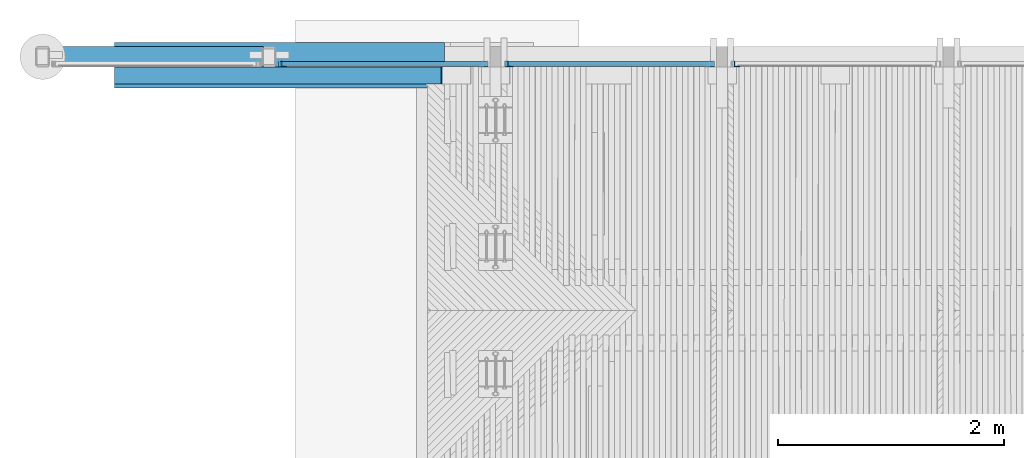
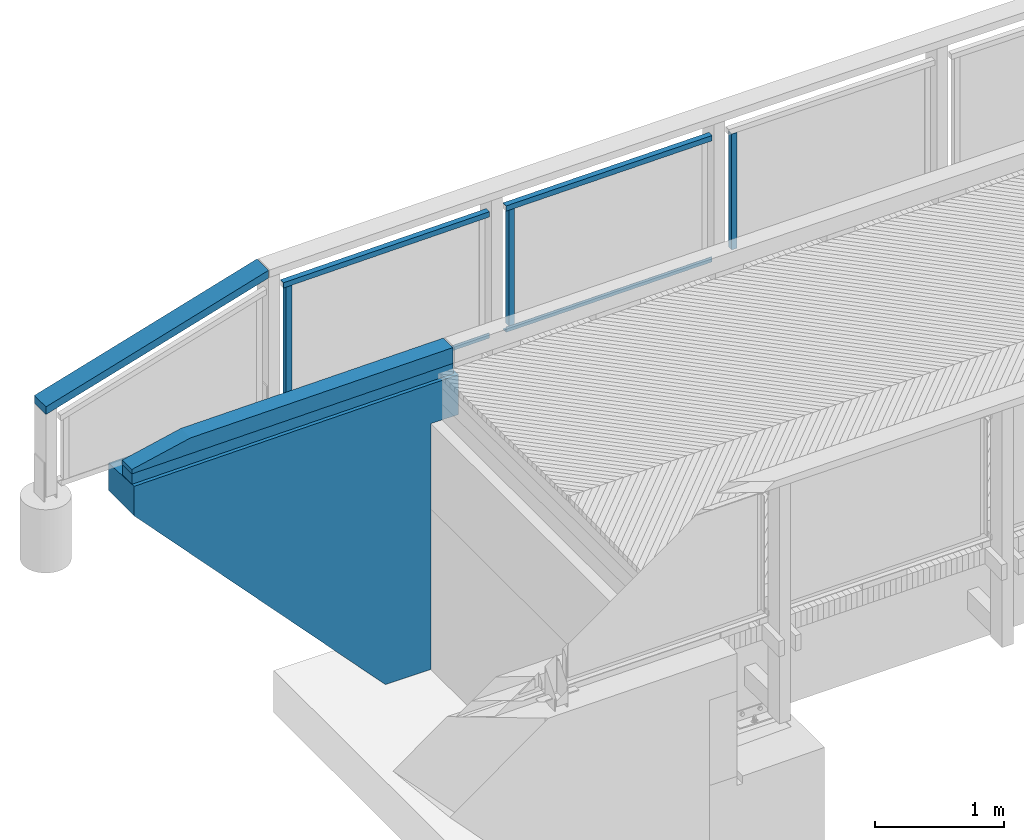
# One storey, part 21 of 65: 11 beams.
"""IFC2X3 building model written with IfcOpenShell, lengths in millimetres."""

from ifc_helpers import new_model, si_unit, frame, origin_with_axes, place, context, subcontext, project, spatial, faceted_brep, material, type_object, element, save


model = new_model("IFC2X3")

# Units and contexts
model_context = context("Model", 3, precision=1e-05, world=origin_with_axes())
body_context = subcontext(model_context, "Body", "Model", "MODEL_VIEW")
ifc_project = project(units=[si_unit("LENGTHUNIT", "METRE", prefix="MILLI"), si_unit("AREAUNIT", "SQUARE_METRE"), si_unit("VOLUMEUNIT", "CUBIC_METRE"), si_unit("MASSUNIT", "GRAM", prefix="KILO"), si_unit("TIMEUNIT", "SECOND"), si_unit("PLANEANGLEUNIT", "RADIAN"), si_unit("SOLIDANGLEUNIT", "STERADIAN"), si_unit("THERMODYNAMICTEMPERATUREUNIT", "DEGREE_CELSIUS"), si_unit("LUMINOUSINTENSITYUNIT", "LUMEN")], contexts=[model_context])

# Site, building, storey
site_placement = place(None, origin_with_axes())
site = spatial("IfcSite", under=ifc_project, at=site_placement, Name="Undefined", CompositionType="ELEMENT")
building_placement = place(site_placement, origin_with_axes())
building = spatial("IfcBuilding", under=site, at=building_placement, Name="Undefined", CompositionType="ELEMENT")
storey_placement = place(building_placement, origin_with_axes())
storey = spatial("IfcBuildingStorey", under=building, at=storey_placement, Name="Undefined", CompositionType="ELEMENT", Elevation=0.0)

# Beams
ifc_material_1 = material(Name="TIMBER/Timber_Undefined")
beam_type_1 = type_object("IfcBeamType", Name="150*100", PredefinedType="NOTDEFINED")
beam_1_placement = place(storey_placement, frame((-3364.03058800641, 24439.9999999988, 3118.67572907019), z_axis=(0.0, -1.0, 0.0), x_axis=(0.999904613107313, 0.0, 0.0138117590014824)))
element("IfcBeam", 1, at=beam_1_placement, inside=storey, type_object=beam_type_1, material=ifc_material_1, Name="TÖRMÄYSJOHDE", ObjectType="150*100", context=body_context, shape_type="Brep", body=[
    faceted_brep([(-3.63797880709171e-12, 50.0, -75.0), (-3.63797880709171e-12, 50.0, 75.0), (2885.27521749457, 50.0, 75.0), (2885.27521749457, 50.0, -75.0), (0.0, -49.9999999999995, 75.0), (2885.27521749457, -49.9999999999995, 75.0), (0.0, -49.9999999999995, -75.0), (2885.27521749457, -49.9999999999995, -75.0)], [[[0, 1, 2, 3]], [[1, 4, 5, 2]], [[4, 6, 7, 5]], [[6, 0, 3, 7]], [[5, 7, 3, 2]], [[6, 4, 1, 0]]]),
])
beam_type_2 = type_object("IfcBeamType", Name="150*150", PredefinedType="NOTDEFINED")
beam_2_placement = place(storey_placement, frame((-3366.03588197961, 24439.9999999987, 3243.66334439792), z_axis=(0.0, -1.0, 0.0), x_axis=(0.999904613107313, 0.0, 0.0138117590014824)))
element("IfcBeam", 2, at=beam_2_placement, inside=storey, type_object=beam_type_2, material=ifc_material_1, Name="TÖRMÄYSJOHDE", ObjectType="150*150", context=body_context, shape_type="Brep", body=[
    faceted_brep([(0.0, -75.0000000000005, 75.0), (0.0, -75.0000000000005, -75.0), (2885.27521749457, -74.9999999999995, -75.0), (2885.27521749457, -74.9999999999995, 75.0), (2885.27521749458, 75.0, -75.0), (2885.27521749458, 75.0, 75.0), (529.511118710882, 75.0, -75.0), (529.511118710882, 75.0, 75.0), (4.54747350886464e-13, -33.1222400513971, 75.0), (4.54747350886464e-13, -33.1222400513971, -75.0)], [[[0, 1, 2, 3]], [[3, 2, 4, 5]], [[5, 4, 6, 7]], [[0, 3, 5, 7, 8]], [[1, 0, 8, 9]], [[4, 2, 1, 9, 6]], [[8, 7, 6, 9]]]),
])
ifc_material_2 = material(Name="CONCRETE/Concrete_Undefined")
beam_type_3 = type_object("IfcBeamType", Name="2800*400", PredefinedType="NOTDEFINED")
beam_3_placement = place(storey_placement, frame((-430.340033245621, 24530.0, 1712.66804762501), z_axis=(-0.0140428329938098, 0.0, 0.999901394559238), x_axis=(-0.999901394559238, 0.0, -0.0140428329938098)))
element("IfcBeam", 3, at=beam_3_placement, inside=storey, type_object=beam_type_3, material=ifc_material_2, Name="SIIPIMUURI", ObjectType="2800*400", context=body_context, shape_type="Brep", body=[
    faceted_brep([(5.63100911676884e-07, 200.0, 1400.0), (0.280884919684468, -200.000000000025, 1380.0), (2915.56834818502, -200.0, 1380.0), (2915.28746382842, 200.0, 1400.0), (270.457242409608, 199.999999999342, -54.8754727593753), (270.457242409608, -200.0, -54.8754727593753), (255.29098277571, -200.0, 1025.01803336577), (255.29098277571, 199.999999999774, 1025.01803336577), (288.066954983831, 200.0, -1308.75182153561), (288.066954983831, -200.0, -1308.75182153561), (697.173583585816, 200.0, -1303.00623892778), (697.173583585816, -200.0, -1303.00623892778), (2919.22031514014, 200.0, 1119.96651154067), (2919.22031514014, -200.0, 1119.96651154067), (5.31563413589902, -200.0, 1021.50732511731), (5.31563413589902, 199.999999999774, 1021.50732511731)], [[[0, 1, 2, 3]], [[4, 5, 6, 7]], [[8, 9, 5, 4]], [[10, 11, 9, 8]], [[12, 13, 11, 10]], [[13, 12, 3, 2]], [[14, 6, 5, 9, 11, 13, 2, 1]], [[7, 6, 14, 15]], [[3, 12, 10, 8, 4, 7, 15, 0]], [[15, 14, 1, 0]]]),
])
ifc_material_3 = material(Name="STEEL/S235JR")
beam_type_4 = type_object("IfcBeamType", Name="L50*5", PredefinedType="NOTDEFINED")
beam_4_placement = place(storey_placement, frame((-1867.50116726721, 24539.9900000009, 4335.13069224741), z_axis=(0.0, 1.0, 0.0), x_axis=(0.0, 0.0, -1.0)))
element("IfcBeam", 4, at=beam_4_placement, inside=storey, type_object=beam_type_4, material=ifc_material_3, Name="BEAM", ObjectType="L50*5", context=body_context, shape_type="Brep", body=[
    faceted_brep([(0.0, 25.0, -25.0), (0.0, 25.0, 25.0), (1099.98982283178, 25.0, 25.0), (1099.98982283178, 25.0, -25.0), (0.0, 20.0, 25.0), (1099.98982283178, 20.0, 25.0), (0.0, 20.0, -20.0), (1099.98982283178, 20.0, -20.0), (0.0, -25.0, -20.0), (1099.98982283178, -25.0, -20.0), (0.0, -25.0, -25.0), (1099.98982283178, -25.0, -25.0)], [[[0, 1, 2, 3]], [[1, 4, 5, 2]], [[4, 6, 7, 5]], [[6, 8, 9, 7]], [[8, 10, 11, 9]], [[10, 0, 3, 11]], [[5, 7, 9, 11, 3, 2]], [[10, 8, 6, 4, 1, 0]]]),
])
beam_5_placement = place(storey_placement, frame((-1917.37287518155, 24539.9900000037, 3209.76815363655), z_axis=(0.0, 1.0, 0.0), x_axis=(0.999888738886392, 0.0, 0.0149167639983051)))
element("IfcBeam", 5, at=beam_5_placement, inside=storey, type_object=beam_type_4, material=ifc_material_3, Name="BEAM", ObjectType="L50*5", context=body_context, shape_type="Brep", body=[
    faceted_brep([(0.0, 25.0, -25.0), (0.0, 25.0, 25.0), (1849.2053154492, 25.0, 25.0), (1849.2053154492, 25.0, -25.0), (0.0, 20.0, 25.0), (1849.2053154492, 20.0, 25.0), (0.0, 20.0, -20.0), (1849.2053154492, 20.0, -20.0), (0.0, -25.0, -20.0), (1849.2053154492, -24.9999999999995, -20.0), (0.0, -25.0, -25.0), (1849.2053154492, -24.9999999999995, -25.0)], [[[0, 1, 2, 3]], [[1, 4, 5, 2]], [[4, 6, 7, 5]], [[6, 8, 9, 7]], [[8, 10, 11, 9]], [[10, 0, 3, 11]], [[5, 7, 9, 11, 3, 2]], [[10, 8, 6, 4, 1, 0]]]),
])
beam_6_placement = place(storey_placement, frame((132.498832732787, 24539.9900000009, 4364.61255347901), z_axis=(0.0, 1.0, 0.0), x_axis=(0.0, 0.0, -1.0)))
element("IfcBeam", 6, at=beam_6_placement, inside=storey, type_object=beam_type_4, material=ifc_material_3, Name="BEAM", ObjectType="L50*5", context=body_context, shape_type="Brep", body=[
    faceted_brep([(0.0, 25.0, -25.0), (0.0, 25.0, 25.0), (1099.99156352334, 25.0, 25.0), (1099.99156352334, 25.0, -25.0), (0.0, 20.0, 25.0), (1099.99156352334, 20.0, 25.0), (0.0, 20.0, -20.0), (1099.99156352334, 20.0, -20.0), (0.0, -25.0, -20.0), (1099.99156352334, -25.0, -20.0), (0.0, -25.0, -25.0), (1099.99156352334, -25.0, -25.0)], [[[0, 1, 2, 3]], [[1, 4, 5, 2]], [[4, 6, 7, 5]], [[6, 8, 9, 7]], [[8, 10, 11, 9]], [[10, 0, 3, 11]], [[5, 7, 9, 11, 3, 2]], [[10, 8, 6, 4, 1, 0]]]),
])
beam_7_placement = place(storey_placement, frame((82.7038172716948, 24539.9899999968, 3239.33229134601), z_axis=(0.0, 1.0, 0.0), x_axis=(0.999932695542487, 0.0, 0.0116019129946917)))
element("IfcBeam", 7, at=beam_7_placement, inside=storey, type_object=beam_type_4, material=ifc_material_3, Name="BEAM", ObjectType="L50*5", context=body_context, shape_type="Brep", body=[
    faceted_brep([(0.0, 25.0, -25.0), (0.0, 25.0, 25.0), (1849.12941305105, 24.9999999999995, 25.0), (1849.12941305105, 24.9999999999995, -25.0), (0.0, 20.0, 25.0), (1849.12941305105, 20.0, 25.0), (0.0, 20.0, -20.0), (1849.12941305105, 20.0, -20.0), (0.0, -25.0, -20.0), (1849.12941305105, -25.0000000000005, -20.0), (0.0, -25.0, -25.0), (1849.12941305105, -25.0000000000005, -25.0)], [[[0, 1, 2, 3]], [[1, 4, 5, 2]], [[4, 6, 7, 5]], [[6, 8, 9, 7]], [[8, 10, 11, 9]], [[10, 0, 3, 11]], [[5, 7, 9, 11, 3, 2]], [[10, 8, 6, 4, 1, 0]]]),
])
beam_8_placement = place(storey_placement, frame((-67.6274382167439, 24539.9899999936, 4387.35861851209), z_axis=(0.0, 1.0, 0.0), x_axis=(-0.999888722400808, 0.0, -0.0149178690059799)))
element("IfcBeam", 8, at=beam_8_placement, inside=storey, type_object=beam_type_4, material=ifc_material_3, Name="BEAM", ObjectType="L50*5", context=body_context, shape_type="Brep", body=[
    faceted_brep([(0.0, 25.0, -25.0), (0.0, 25.0, 25.0), (1849.2053154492, 25.0, 25.0), (1849.2053154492, 25.0, -25.0), (0.0, 20.0, 25.0), (1849.2053154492, 20.0, 25.0), (0.0, 20.0, -20.0), (1849.2053154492, 20.0, -20.0), (0.0, -25.0, -20.0), (1849.2053154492, -24.9999999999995, -20.0), (0.0, -25.0, -25.0), (1849.2053154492, -24.9999999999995, -25.0)], [[[0, 1, 2, 3]], [[1, 4, 5, 2]], [[4, 6, 7, 5]], [[6, 8, 9, 7]], [[8, 10, 11, 9]], [[10, 0, 3, 11]], [[5, 7, 9, 11, 3, 2]], [[10, 8, 6, 4, 1, 0]]]),
])
beam_9_placement = place(storey_placement, frame((2132.49883273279, 24539.9900000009, 4387.46403524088), z_axis=(0.0, 1.0, 0.0), x_axis=(0.0, 0.0, -1.0)))
element("IfcBeam", 9, at=beam_9_placement, inside=storey, type_object=beam_type_4, material=ifc_material_3, Name="BEAM", ObjectType="L50*5", context=body_context, shape_type="Brep", body=[
    faceted_brep([(0.0, 25.0, -25.0), (0.0, 25.0, 25.0), (1099.9980148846, 25.0, 25.0), (1099.9980148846, 25.0, -25.0), (0.0, 20.0, 25.0), (1099.9980148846, 20.0, 25.0), (0.0, 20.0, -20.0), (1099.9980148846, 20.0, -20.0), (0.0, -25.0, -20.0), (1099.9980148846, -25.0, -20.0), (0.0, -25.0, -25.0), (1099.9980148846, -25.0, -25.0)], [[[0, 1, 2, 3]], [[1, 4, 5, 2]], [[4, 6, 7, 5]], [[6, 8, 9, 7]], [[8, 10, 11, 9]], [[10, 0, 3, 11]], [[5, 7, 9, 11, 3, 2]], [[10, 8, 6, 4, 1, 0]]]),
])
beam_10_placement = place(storey_placement, frame((1932.28887131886, 24539.9899999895, 4410.78604338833), z_axis=(0.0, 1.0, 0.0), x_axis=(-0.999932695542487, 0.0, -0.0116019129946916)))
element("IfcBeam", 10, at=beam_10_placement, inside=storey, type_object=beam_type_4, material=ifc_material_3, Name="BEAM", ObjectType="L50*5", context=body_context, shape_type="Brep", body=[
    faceted_brep([(0.0, 25.0, -25.0), (0.0, 25.0, 25.0), (1849.12941305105, 24.9999999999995, 25.0), (1849.12941305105, 24.9999999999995, -25.0), (0.0, 20.0, 25.0), (1849.12941305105, 20.0, 25.0), (0.0, 20.0, -20.0), (1849.12941305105, 20.0, -20.0), (0.0, -25.0, -20.0), (1849.12941305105, -25.0000000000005, -20.0), (0.0, -25.0, -25.0), (1849.12941305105, -25.0000000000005, -25.0)], [[[0, 1, 2, 3]], [[1, 4, 5, 2]], [[4, 6, 7, 5]], [[6, 8, 9, 7]], [[8, 10, 11, 9]], [[10, 0, 3, 11]], [[5, 7, 9, 11, 3, 2]], [[10, 8, 6, 4, 1, 0]]]),
])
beam_type_5 = type_object("IfcBeamType", Name="180*70", PredefinedType="NOTDEFINED")
beam_11_placement = place(storey_placement, frame((-2039.93420243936, 24605.0099640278, 4517.05500293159), z_axis=(0.0, -1.0, 0.0), x_axis=(-0.958243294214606, 0.0, -0.285954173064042)))
element("IfcBeam", 11, at=beam_11_placement, inside=storey, type_object=beam_type_5, material=ifc_material_1, Name="YLÄJOHDE", ObjectType="180*70", context=body_context, shape_type="Brep", body=[
    faceted_brep([(41.6879268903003, 35.0699417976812, -90.0), (41.8028913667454, -34.9299637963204, -90.0), (0.059877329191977, -34.9999487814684, -90.0), (20.9594530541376, 35.0351891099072, -90.0), (41.8028913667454, -34.9299637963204, 90.0), (41.6879268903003, 35.0699417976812, 90.0), (20.9594530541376, 35.0351891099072, 90.0), (0.059877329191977, -34.9999487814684, 90.0), (83.4357358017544, 35.1370779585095, 90.0), (83.4357358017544, 35.1370779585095, -90.0), (83.5459100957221, -34.8628353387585, -90.0), (83.5459100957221, -34.8628353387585, 90.0), (125.288933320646, -34.7985634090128, 90.0), (125.183549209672, 35.2013572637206, 90.0), (125.183549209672, 35.2013572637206, -90.0), (125.288933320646, -34.7985634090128, -90.0), (167.031960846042, -34.7371480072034, -90.0), (167.031960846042, -34.7371480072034, 90.0), (166.931366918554, 35.2627797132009, 90.0), (166.931366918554, 35.2627797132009, -90.0), (208.679188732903, 35.3213453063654, -90.0), (208.774992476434, -34.6785891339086, -90.0), (208.774992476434, -34.6785891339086, 90.0), (208.679188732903, 35.3213453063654, 90.0), (250.427014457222, 35.3770540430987, 90.0), (250.427014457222, 35.3770540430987, -90.0), (250.518028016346, -34.6228867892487, -90.0), (250.518028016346, -34.6228867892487, 90.0), (292.261067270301, -34.57004097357, 90.0), (292.17484389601, 35.4299059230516, 90.0), (292.17484389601, 35.4299059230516, -90.0), (292.261067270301, -34.57004097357, -90.0), (334.004110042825, -34.5200516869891, -90.0), (334.004110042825, -34.5200516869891, 90.0), (333.922676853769, 35.4799009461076, 90.0), (333.922676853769, 35.4799009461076, -90.0), (375.670513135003, 35.527039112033, -90.0), (375.747156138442, -34.4729189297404, -90.0), (375.747156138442, -34.4729189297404, 90.0), (375.670513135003, 35.527039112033, 90.0), (417.418352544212, 35.5713204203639, 90.0), (417.418352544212, 35.5713204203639, -90.0), (417.490205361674, -34.428642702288, -90.0), (417.490205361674, -34.428642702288, 90.0), (459.233257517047, -34.3872230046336, 90.0), (459.166194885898, 35.6127448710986, 90.0), (459.166194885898, 35.6127448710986, -90.0), (459.233257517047, -34.3872230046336, -90.0), (500.976312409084, -34.3486598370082, -90.0), (500.976312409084, -34.3486598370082, 90.0), (500.914039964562, 35.651312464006, 90.0), (500.914039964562, 35.651312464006, -90.0), (542.661887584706, 35.6870231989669, -90.0), (542.71936984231, -34.3129531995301, -90.0), (542.71936984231, -34.3129531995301, 90.0), (542.661887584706, 35.6870231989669, 90.0), (584.409737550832, 35.7198770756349, 90.0), (584.409737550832, 35.7198770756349, -90.0), (584.462429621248, -34.2801030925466, -90.0), (584.462429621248, -34.2801030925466, 90.0), (626.205491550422, -34.2501095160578, 90.0), (626.157589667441, 35.7498740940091, 90.0), (626.157589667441, 35.7498740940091, -90.0), (626.205491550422, -34.2501095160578, -90.0), (667.948555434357, -34.222972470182, -90.0), (667.948555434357, -34.222972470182, 90.0), (667.905443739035, 35.777014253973, 90.0), (667.905443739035, 35.777014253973, -90.0), (709.653299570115, 35.801297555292, -90.0), (709.691621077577, -34.19869195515, -90.0), (709.691621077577, -34.19869195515, 90.0), (709.653299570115, 35.801297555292, 90.0), (751.401156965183, 35.8227239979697, 90.0), (751.401156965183, 35.8227239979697, -90.0), (751.434688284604, -34.1772679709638, -90.0), (751.434688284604, -34.1772679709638, 90.0), (793.177756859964, -34.1587005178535, 90.0), (793.14901572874, 35.8412935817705, 90.0), (793.14901572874, 35.8412935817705, -90.0), (793.177756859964, -34.1587005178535, -90.0), (834.920826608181, -34.1429895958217, -90.0), (834.920826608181, -34.1429895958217, 90.0), (834.896875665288, 35.8570063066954, 90.0), (834.896875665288, 35.8570063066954, -90.0), (876.644736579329, 35.8698621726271, -90.0), (876.663897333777, -34.1301352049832, -90.0), (876.663897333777, -34.1301352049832, 90.0), (876.644736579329, 35.8698621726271, 90.0), (918.392598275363, 35.8798611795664, 90.0), (918.392598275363, 35.8798611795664, -90.0), (918.406968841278, -34.1201373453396, -90.0), (918.406968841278, -34.1201373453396, 90.0), (960.150040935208, -34.1129960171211, 90.0), (960.140460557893, 35.8870033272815, 90.0), (960.140460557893, 35.8870033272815, -90.0), (960.150040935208, -34.1129960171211, -90.0), (1001.89311342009, -34.1087112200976, -90.0), (1001.89311342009, -34.1087112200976, 90.0), (1001.88832323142, 35.8912886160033, 90.0), (1001.88832323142, 35.8912886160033, -90.0), (1043.63618610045, 35.8927170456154, -90.0), (1043.63618610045, -34.1072829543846, -90.0), (1043.63618610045, -34.1072829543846, 90.0), (1043.63618610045, 35.8927170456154, 90.0), (1085.38404896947, 35.8912886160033, 90.0), (1085.38404896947, 35.8912886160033, -90.0), (1085.3792587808, -34.1087112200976, -90.0), (1085.3792587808, -34.1087112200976, 90.0), (1127.12233126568, -34.1129960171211, 90.0), (1127.131911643, 35.8870033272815, 90.0), (1127.131911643, 35.8870033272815, -90.0), (1127.12233126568, -34.1129960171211, -90.0), (1168.86540335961, -34.1201373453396, -90.0), (1168.86540335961, -34.1201373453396, 90.0), (1168.87977392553, 35.8798611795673, 90.0), (1168.87977392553, 35.8798611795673, -90.0), (1210.62763562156, 35.8698621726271, -90.0), (1210.60847486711, -34.1301352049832, -90.0), (1210.60847486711, -34.1301352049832, 90.0), (1210.62763562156, 35.8698621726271, 90.0), (1252.3754965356, 35.8570063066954, 90.0), (1252.3754965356, 35.8570063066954, -90.0), (1252.35154559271, -34.1429895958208, -90.0), (1252.35154559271, -34.1429895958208, 90.0), (1294.09461534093, -34.1587005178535, 90.0), (1294.12335647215, 35.8412935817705, 90.0), (1294.12335647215, 35.8412935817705, -90.0), (1294.09461534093, -34.1587005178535, -90.0), (1335.83768391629, -34.1772679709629, -90.0), (1335.83768391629, -34.1772679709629, 90.0), (1335.87121523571, 35.8227239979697, 90.0), (1335.87121523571, 35.8227239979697, -90.0), (1377.61907263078, 35.8012975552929, -90.0), (1377.58075112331, -34.1986919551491, -90.0), (1377.58075112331, -34.1986919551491, 90.0), (1377.61907263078, 35.8012975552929, 90.0), (1419.36692846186, 35.777014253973, 90.0), (1419.36692846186, 35.777014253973, -90.0), (1419.32381676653, -34.222972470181, -90.0), (1419.32381676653, -34.222972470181, 90.0), (1461.06688065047, -34.2501095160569, 90.0), (1461.11478253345, 35.7498740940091, 90.0), (1461.11478253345, 35.7498740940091, -90.0), (1461.06688065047, -34.2501095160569, -90.0), (1502.80994257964, -34.2801030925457, -90.0), (1502.80994257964, -34.2801030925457, 90.0), (1502.86263465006, 35.7198770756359, 90.0), (1502.86263465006, 35.7198770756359, -90.0), (1544.61048461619, 35.6870231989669, -90.0), (1544.55300235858, -34.3129531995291, -90.0), (1544.55300235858, -34.3129531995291, 90.0), (1544.61048461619, 35.6870231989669, 90.0), (1586.35833223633, 35.6513124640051, 90.0), (1586.35833223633, 35.6513124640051, -90.0), (1586.29605979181, -34.3486598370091, -90.0), (1586.29605979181, -34.3486598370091, 90.0), (1628.03911468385, -34.3872230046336, 90.0), (1628.10617731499, 35.6127448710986, 90.0), (1628.10617731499, 35.6127448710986, -90.0), (1628.03911468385, -34.3872230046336, -90.0), (1669.78216683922, -34.428642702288, -90.0), (1669.78216683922, -34.428642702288, 90.0), (1669.85401965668, 35.5713204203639, 90.0), (1669.85401965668, 35.5713204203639, -90.0), (1711.60185906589, 35.527039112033, -90.0), (1711.52521606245, -34.4729189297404, -90.0), (1711.52521606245, -34.4729189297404, 90.0), (1711.60185906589, 35.527039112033, 90.0), (1753.34969534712, 35.4799009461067, 90.0), (1753.34969534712, 35.4799009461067, -90.0), (1753.26826215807, -34.5200516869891, -90.0), (1753.26826215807, -34.5200516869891, 90.0), (1795.01130493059, -34.5700409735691, 90.0), (1795.09752830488, 35.4299059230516, 90.0), (1795.09752830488, 35.4299059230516, -90.0), (1795.01130493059, -34.5700409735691, -90.0), (1836.75434418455, -34.6228867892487, -90.0), (1836.75434418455, -34.6228867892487, 90.0), (1836.84535774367, 35.3770540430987, 90.0), (1836.84535774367, 35.3770540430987, -90.0), (1878.59318346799, 35.3213453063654, -90.0), (1878.49737972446, -34.6785891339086, -90.0), (1878.49737972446, -34.6785891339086, 90.0), (1878.59318346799, 35.3213453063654, 90.0), (1920.34100528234, 35.2627797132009, 90.0), (1920.34100528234, 35.2627797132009, -90.0), (1920.24041135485, -34.7371480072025, -90.0), (1920.24041135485, -34.7371480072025, 90.0), (1961.98343888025, -34.7985634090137, 90.0), (1962.08882299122, 35.2013572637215, 90.0), (1962.08882299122, 35.2013572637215, -90.0), (1961.98343888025, -34.7985634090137, -90.0), (2003.72646210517, -34.8628353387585, -90.0), (2003.72646210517, -34.8628353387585, 90.0), (2003.83663639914, 35.1370779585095, 90.0), (2003.83663639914, 35.1370779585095, -90.0), (2045.58444531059, 35.0699417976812, -90.0), (2045.46948083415, -34.9299637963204, -90.0), (2045.46948083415, -34.9299637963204, 90.0), (2045.58444531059, 35.0699417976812, 90.0), (2087.33224953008, 34.9999487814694, 90.0), (2087.33224953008, 34.9999487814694, -90.0), (2087.2124948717, -34.9999487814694, -90.0), (2087.2124948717, -34.9999487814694, 90.0), (2108.09074494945, 34.9637252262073, 90.0), (2108.09074494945, 34.9637252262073, -90.0)], [[[0, 1, 2, 3]], [[4, 5, 6, 7]], [[1, 4, 7, 2]], [[6, 3, 2, 7]], [[5, 0, 3, 6]], [[0, 5, 8, 9]], [[1, 0, 9, 10]], [[4, 1, 10, 11]], [[5, 4, 11, 8]], [[8, 11, 12, 13]], [[9, 8, 13, 14]], [[10, 9, 14, 15]], [[11, 10, 15, 12]], [[12, 15, 16, 17]], [[13, 12, 17, 18]], [[14, 13, 18, 19]], [[15, 14, 19, 16]], [[16, 19, 20, 21]], [[17, 16, 21, 22]], [[18, 17, 22, 23]], [[19, 18, 23, 20]], [[20, 23, 24, 25]], [[21, 20, 25, 26]], [[22, 21, 26, 27]], [[23, 22, 27, 24]], [[24, 27, 28, 29]], [[25, 24, 29, 30]], [[26, 25, 30, 31]], [[27, 26, 31, 28]], [[28, 31, 32, 33]], [[29, 28, 33, 34]], [[30, 29, 34, 35]], [[31, 30, 35, 32]], [[32, 35, 36, 37]], [[33, 32, 37, 38]], [[34, 33, 38, 39]], [[35, 34, 39, 36]], [[36, 39, 40, 41]], [[37, 36, 41, 42]], [[38, 37, 42, 43]], [[39, 38, 43, 40]], [[40, 43, 44, 45]], [[41, 40, 45, 46]], [[42, 41, 46, 47]], [[43, 42, 47, 44]], [[44, 47, 48, 49]], [[45, 44, 49, 50]], [[46, 45, 50, 51]], [[47, 46, 51, 48]], [[48, 51, 52, 53]], [[49, 48, 53, 54]], [[50, 49, 54, 55]], [[51, 50, 55, 52]], [[52, 55, 56, 57]], [[53, 52, 57, 58]], [[54, 53, 58, 59]], [[55, 54, 59, 56]], [[56, 59, 60, 61]], [[57, 56, 61, 62]], [[58, 57, 62, 63]], [[59, 58, 63, 60]], [[60, 63, 64, 65]], [[61, 60, 65, 66]], [[62, 61, 66, 67]], [[63, 62, 67, 64]], [[64, 67, 68, 69]], [[65, 64, 69, 70]], [[66, 65, 70, 71]], [[67, 66, 71, 68]], [[68, 71, 72, 73]], [[69, 68, 73, 74]], [[70, 69, 74, 75]], [[71, 70, 75, 72]], [[72, 75, 76, 77]], [[73, 72, 77, 78]], [[74, 73, 78, 79]], [[75, 74, 79, 76]], [[76, 79, 80, 81]], [[77, 76, 81, 82]], [[78, 77, 82, 83]], [[79, 78, 83, 80]], [[80, 83, 84, 85]], [[81, 80, 85, 86]], [[82, 81, 86, 87]], [[83, 82, 87, 84]], [[84, 87, 88, 89]], [[85, 84, 89, 90]], [[86, 85, 90, 91]], [[87, 86, 91, 88]], [[88, 91, 92, 93]], [[89, 88, 93, 94]], [[90, 89, 94, 95]], [[91, 90, 95, 92]], [[92, 95, 96, 97]], [[93, 92, 97, 98]], [[94, 93, 98, 99]], [[95, 94, 99, 96]], [[96, 99, 100, 101]], [[97, 96, 101, 102]], [[98, 97, 102, 103]], [[99, 98, 103, 100]], [[100, 103, 104, 105]], [[101, 100, 105, 106]], [[102, 101, 106, 107]], [[103, 102, 107, 104]], [[104, 107, 108, 109]], [[105, 104, 109, 110]], [[106, 105, 110, 111]], [[107, 106, 111, 108]], [[108, 111, 112, 113]], [[109, 108, 113, 114]], [[110, 109, 114, 115]], [[111, 110, 115, 112]], [[112, 115, 116, 117]], [[113, 112, 117, 118]], [[114, 113, 118, 119]], [[115, 114, 119, 116]], [[116, 119, 120, 121]], [[117, 116, 121, 122]], [[118, 117, 122, 123]], [[119, 118, 123, 120]], [[120, 123, 124, 125]], [[121, 120, 125, 126]], [[122, 121, 126, 127]], [[123, 122, 127, 124]], [[124, 127, 128, 129]], [[125, 124, 129, 130]], [[126, 125, 130, 131]], [[127, 126, 131, 128]], [[128, 131, 132, 133]], [[129, 128, 133, 134]], [[130, 129, 134, 135]], [[131, 130, 135, 132]], [[132, 135, 136, 137]], [[133, 132, 137, 138]], [[134, 133, 138, 139]], [[135, 134, 139, 136]], [[136, 139, 140, 141]], [[137, 136, 141, 142]], [[138, 137, 142, 143]], [[139, 138, 143, 140]], [[140, 143, 144, 145]], [[141, 140, 145, 146]], [[142, 141, 146, 147]], [[143, 142, 147, 144]], [[144, 147, 148, 149]], [[145, 144, 149, 150]], [[146, 145, 150, 151]], [[147, 146, 151, 148]], [[148, 151, 152, 153]], [[149, 148, 153, 154]], [[150, 149, 154, 155]], [[151, 150, 155, 152]], [[152, 155, 156, 157]], [[153, 152, 157, 158]], [[154, 153, 158, 159]], [[155, 154, 159, 156]], [[156, 159, 160, 161]], [[157, 156, 161, 162]], [[158, 157, 162, 163]], [[159, 158, 163, 160]], [[160, 163, 164, 165]], [[161, 160, 165, 166]], [[162, 161, 166, 167]], [[163, 162, 167, 164]], [[164, 167, 168, 169]], [[165, 164, 169, 170]], [[166, 165, 170, 171]], [[167, 166, 171, 168]], [[168, 171, 172, 173]], [[169, 168, 173, 174]], [[170, 169, 174, 175]], [[171, 170, 175, 172]], [[172, 175, 176, 177]], [[173, 172, 177, 178]], [[174, 173, 178, 179]], [[175, 174, 179, 176]], [[176, 179, 180, 181]], [[177, 176, 181, 182]], [[178, 177, 182, 183]], [[179, 178, 183, 180]], [[180, 183, 184, 185]], [[181, 180, 185, 186]], [[182, 181, 186, 187]], [[183, 182, 187, 184]], [[184, 187, 188, 189]], [[185, 184, 189, 190]], [[186, 185, 190, 191]], [[187, 186, 191, 188]], [[188, 191, 192, 193]], [[189, 188, 193, 194]], [[190, 189, 194, 195]], [[191, 190, 195, 192]], [[192, 195, 196, 197]], [[193, 192, 197, 198]], [[194, 193, 198, 199]], [[195, 194, 199, 196]], [[196, 199, 200, 201]], [[197, 196, 201, 202]], [[198, 197, 202, 203]], [[199, 198, 203, 200]], [[200, 203, 204]], [[201, 200, 204, 205]], [[201, 205, 202]], [[204, 203, 202, 205]]]),
])

save(model, "model.ifc")
